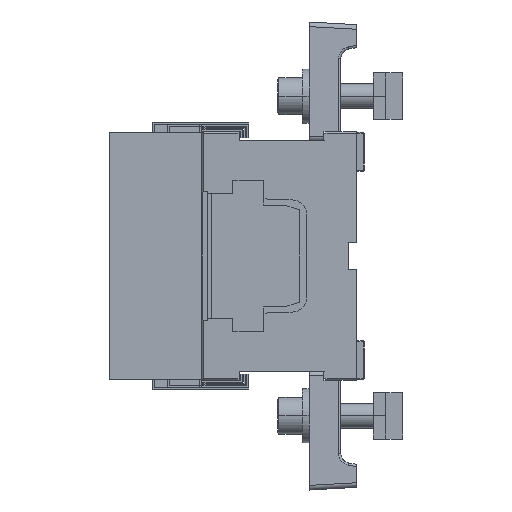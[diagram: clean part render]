
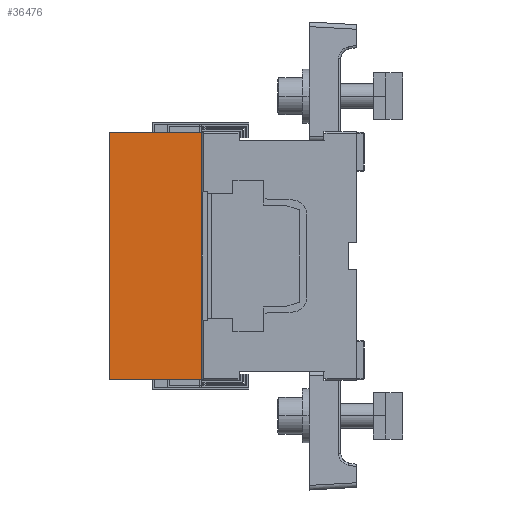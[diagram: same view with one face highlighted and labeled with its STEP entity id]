
A CAD part, left-side view. The second image highlights one B-rep face of the part: STEP entity #36476.
In plain terms, the highlighted planar face has unit normal (-1, 0, 0).
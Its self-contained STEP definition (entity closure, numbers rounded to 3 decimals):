
#207 = DIRECTION ( 'NONE',  ( 0., 0., -1. ) ) ;
#2402 = DIRECTION ( 'NONE',  ( 1., 0., 0. ) ) ;
#2711 = DIRECTION ( 'NONE',  ( 0., -1., 0. ) ) ;
#3498 = FACE_OUTER_BOUND ( 'NONE', #50215, .T. ) ;
#3517 = AXIS2_PLACEMENT_3D ( 'NONE', #25962, #2402, #69288 ) ;
#7122 = ORIENTED_EDGE ( 'NONE', *, *, #52988, .F. ) ;
#7136 = DIRECTION ( 'NONE',  ( 0., -1., 0. ) ) ;
#7229 = DIRECTION ( 'NONE',  ( 0., 1., 0. ) ) ;
#8300 = PLANE ( 'NONE',  #3517 ) ;
#8451 = VERTEX_POINT ( 'NONE', #51944 ) ;
#8489 = CARTESIAN_POINT ( 'NONE',  ( -47., 60., 80. ) ) ;
#8965 = CARTESIAN_POINT ( 'NONE',  ( -47., 0., 80. ) ) ;
#9789 = DIRECTION ( 'NONE',  ( 0., 0., 1. ) ) ;
#12552 = EDGE_CURVE ( 'NONE', #35979, #56428, #49264, .T. ) ;
#12852 = CARTESIAN_POINT ( 'NONE',  ( -47., 60., -80. ) ) ;
#13028 = EDGE_CURVE ( 'NONE', #56428, #66778, #41309, .T. ) ;
#13372 = VECTOR ( 'NONE', #13775, 1000. ) ;
#13775 = DIRECTION ( 'NONE',  ( 0., 0., -1. ) ) ;
#13783 = VECTOR ( 'NONE', #43769, 1000. ) ;
#14034 = CARTESIAN_POINT ( 'NONE',  ( -47., 0., 80. ) ) ;
#14148 = LINE ( 'NONE', #25947, #13372 ) ;
#14837 = CARTESIAN_POINT ( 'NONE',  ( -47., 0.3, -42. ) ) ;
#15651 = CARTESIAN_POINT ( 'NONE',  ( -47., 0.3, 42. ) ) ;
#20012 = VERTEX_POINT ( 'NONE', #14034 ) ;
#20363 = LINE ( 'NONE', #8965, #53931 ) ;
#22640 = CARTESIAN_POINT ( 'NONE',  ( -47., 0., 80. ) ) ;
#22865 = CARTESIAN_POINT ( 'NONE',  ( -47., 60., 80. ) ) ;
#23356 = VERTEX_POINT ( 'NONE', #14837 ) ;
#25947 = CARTESIAN_POINT ( 'NONE',  ( -47., 0., 80. ) ) ;
#25962 = CARTESIAN_POINT ( 'NONE',  ( -47., 0., 80. ) ) ;
#28610 = ORIENTED_EDGE ( 'NONE', *, *, #69242, .T. ) ;
#32564 = LINE ( 'NONE', #15651, #38286 ) ;
#33871 = VECTOR ( 'NONE', #7229, 1000. ) ;
#34885 = DIRECTION ( 'NONE',  ( 0., -1., 0. ) ) ;
#35127 = CARTESIAN_POINT ( 'NONE',  ( -47., -8., -42. ) ) ;
#35511 = VECTOR ( 'NONE', #34885, 1000. ) ;
#35870 = ORIENTED_EDGE ( 'NONE', *, *, #13028, .T. ) ;
#35979 = VERTEX_POINT ( 'NONE', #22865 ) ;
#36476 = ADVANCED_FACE ( 'NONE', ( #3498 ), #8300, .F. ) ;
#37232 = ORIENTED_EDGE ( 'NONE', *, *, #58802, .F. ) ;
#38286 = VECTOR ( 'NONE', #9789, 1000. ) ;
#41286 = ORIENTED_EDGE ( 'NONE', *, *, #56525, .T. ) ;
#41309 = LINE ( 'NONE', #53033, #46595 ) ;
#43769 = DIRECTION ( 'NONE',  ( 0., 0., -1. ) ) ;
#45789 = LINE ( 'NONE', #22640, #59232 ) ;
#46355 = CARTESIAN_POINT ( 'NONE',  ( -47., 0., -42. ) ) ;
#46595 = VECTOR ( 'NONE', #7136, 1000. ) ;
#47791 = ORIENTED_EDGE ( 'NONE', *, *, #59461, .F. ) ;
#48445 = VERTEX_POINT ( 'NONE', #46355 ) ;
#49264 = LINE ( 'NONE', #8489, #13783 ) ;
#49384 = VERTEX_POINT ( 'NONE', #67291 ) ;
#50215 = EDGE_LOOP ( 'NONE', ( #54521, #41286, #37232, #7122, #63982, #35870, #47791, #28610 ) ) ;
#51944 = CARTESIAN_POINT ( 'NONE',  ( -47., 0.3, 42. ) ) ;
#52883 = CARTESIAN_POINT ( 'NONE',  ( -47., -8., 42. ) ) ;
#52988 = EDGE_CURVE ( 'NONE', #35979, #20012, #20363, .T. ) ;
#53033 = CARTESIAN_POINT ( 'NONE',  ( -47., 0., -80. ) ) ;
#53931 = VECTOR ( 'NONE', #2711, 1000. ) ;
#54521 = ORIENTED_EDGE ( 'NONE', *, *, #66936, .T. ) ;
#56428 = VERTEX_POINT ( 'NONE', #12852 ) ;
#56525 = EDGE_CURVE ( 'NONE', #8451, #49384, #68688, .T. ) ;
#58802 = EDGE_CURVE ( 'NONE', #20012, #49384, #14148, .T. ) ;
#59232 = VECTOR ( 'NONE', #207, 1000. ) ;
#59461 = EDGE_CURVE ( 'NONE', #48445, #66778, #45789, .T. ) ;
#63080 = LINE ( 'NONE', #35127, #33871 ) ;
#63982 = ORIENTED_EDGE ( 'NONE', *, *, #12552, .T. ) ;
#66778 = VERTEX_POINT ( 'NONE', #68597 ) ;
#66936 = EDGE_CURVE ( 'NONE', #23356, #8451, #32564, .T. ) ;
#67291 = CARTESIAN_POINT ( 'NONE',  ( -47., 0., 42. ) ) ;
#68597 = CARTESIAN_POINT ( 'NONE',  ( -47., 0., -80. ) ) ;
#68688 = LINE ( 'NONE', #52883, #35511 ) ;
#69242 = EDGE_CURVE ( 'NONE', #48445, #23356, #63080, .T. ) ;
#69288 = DIRECTION ( 'NONE',  ( 0., 0., -1. ) ) ;
